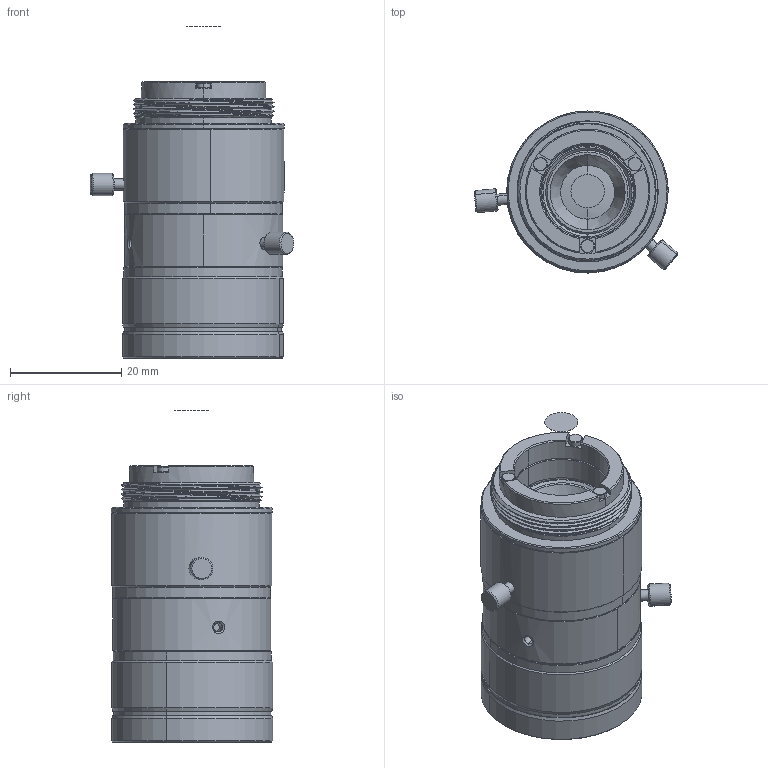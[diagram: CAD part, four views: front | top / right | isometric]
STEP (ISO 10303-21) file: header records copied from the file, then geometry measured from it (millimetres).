
FILE_DESCRIPTION((''),'2;1');
FILE_NAME('LS-MF3528M-8MPS','2026-09-14T',('LumaSpec Vision'),('LumaSpec Vision'),'CREO PARAMETRIC BY PTC INC, 2014190','CREO PARAMETRIC BY PTC INC, 2014190','');
FILE_SCHEMA(('CONFIG_CONTROL_DESIGN'));
Length unit declared in the file: millimetre
Products named in the file (9): FA072606A-XM; FA072606A-103; FA072606A-104; FA072606A-102; FA072606A-101_ASM; FA072606A-105; PHX-16-501; FA072606A-501; FA072606A-ZP-2_ASM
Assembly tree (11 placements, depth 2):
  FA072606A-ZP-2_ASM
    FA072606A-XM
    FA072606A-103
    FA072606A-104
    FA072606A-102
    FA072606A-101_ASM
    FA072606A-105
    PHX-16-501  x2
    FA072606A-501  x3
Bounding box: 36.68 x 29.13 x 59.8 mm (x, y, z)
Volume: 22698.3 mm3; surface area: 18075 mm2
Topology: 10 solids, 10 shells, 447 faces, 1782 edges, 1425 vertices
Faces by surface type: cylinder 172, cone 145, plane 88, bspline 38, sphere 4
Entity records: 24591 total; most frequent: CARTESIAN_POINT 12682, DIRECTION 2365, ORIENTED_EDGE 1876, AXIS2_PLACEMENT_3D 941, EDGE_CURVE 938, COMPOSITE_CURVE_SEGMENT 738, B_SPLINE_CURVE_WITH_KNOTS 701, VERTEX_POINT 581
